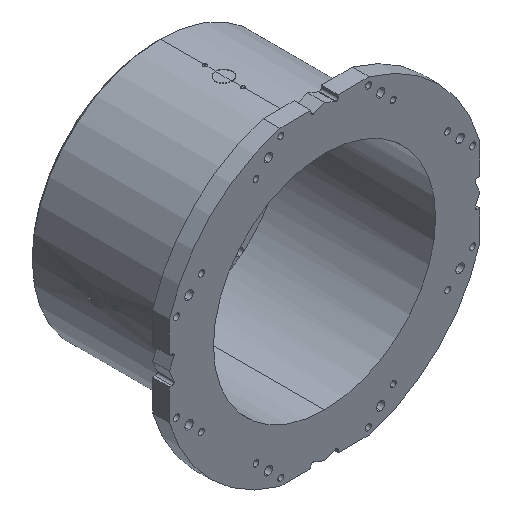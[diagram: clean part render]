
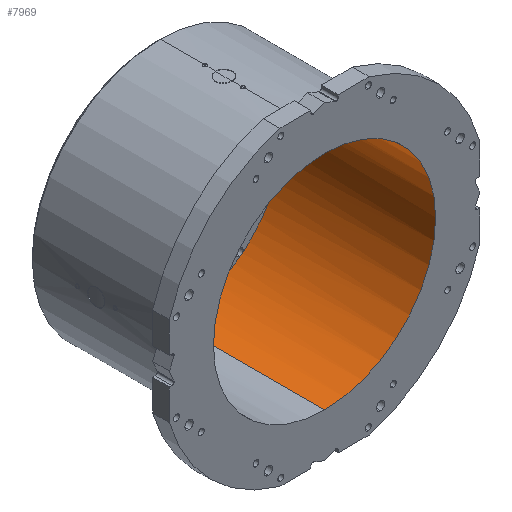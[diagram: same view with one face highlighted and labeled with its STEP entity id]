
A CAD part, isometric view. The second image highlights one B-rep face of the part: STEP entity #7969.
In plain terms, the highlighted cylindrical face has radius 265 mm (diameter 530 mm), a partial arc.
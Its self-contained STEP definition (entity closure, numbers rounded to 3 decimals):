
#61 = CARTESIAN_POINT ( 'NONE',  ( 0., 363., 0. ) ) ;
#160 = DIRECTION ( 'NONE',  ( 0., 0., 1. ) ) ;
#321 = VERTEX_POINT ( 'NONE', #10235 ) ;
#514 = ORIENTED_EDGE ( 'NONE', *, *, #6958, .F. ) ;
#605 = CARTESIAN_POINT ( 'NONE',  ( 0., 0., 0. ) ) ;
#945 = CARTESIAN_POINT ( 'NONE',  ( 0., 0., 0. ) ) ;
#1448 = VERTEX_POINT ( 'NONE', #9863 ) ;
#1966 = DIRECTION ( 'NONE',  ( 0., 1., 0. ) ) ;
#2397 = DIRECTION ( 'NONE',  ( 0., 1., 0. ) ) ;
#2420 = CARTESIAN_POINT ( 'NONE',  ( 0., 0., -265. ) ) ;
#2436 = VECTOR ( 'NONE', #4491, 1000. ) ;
#2798 = CARTESIAN_POINT ( 'NONE',  ( 0., 0., -265. ) ) ;
#2836 = DIRECTION ( 'NONE',  ( 0., 1., 0. ) ) ;
#3251 = LINE ( 'NONE', #2420, #4385 ) ;
#3862 = ORIENTED_EDGE ( 'NONE', *, *, #10820, .F. ) ;
#4275 = LINE ( 'NONE', #5284, #2436 ) ;
#4311 = DIRECTION ( 'NONE',  ( 0., 0., 1. ) ) ;
#4385 = VECTOR ( 'NONE', #7556, 1000. ) ;
#4491 = DIRECTION ( 'NONE',  ( 0., 1., 0. ) ) ;
#4682 = EDGE_CURVE ( 'NONE', #1448, #8943, #4275, .T. ) ;
#4839 = FACE_OUTER_BOUND ( 'NONE', #10063, .T. ) ;
#4928 = VERTEX_POINT ( 'NONE', #2798 ) ;
#5284 = CARTESIAN_POINT ( 'NONE',  ( 0., 0., 265. ) ) ;
#5556 = AXIS2_PLACEMENT_3D ( 'NONE', #605, #2397, #10756 ) ;
#5685 = ORIENTED_EDGE ( 'NONE', *, *, #4682, .T. ) ;
#5686 = CYLINDRICAL_SURFACE ( 'NONE', #5556, 265. ) ;
#6538 = ORIENTED_EDGE ( 'NONE', *, *, #11045, .T. ) ;
#6958 = EDGE_CURVE ( 'NONE', #1448, #4928, #9971, .T. ) ;
#7556 = DIRECTION ( 'NONE',  ( 0., 1., 0. ) ) ;
#7588 = CIRCLE ( 'NONE', #10976, 265. ) ;
#7969 = ADVANCED_FACE ( 'NONE', ( #4839 ), #5686, .F. ) ;
#8060 = CARTESIAN_POINT ( 'NONE',  ( 0., 363., 265. ) ) ;
#8740 = AXIS2_PLACEMENT_3D ( 'NONE', #945, #2836, #160 ) ;
#8943 = VERTEX_POINT ( 'NONE', #8060 ) ;
#9863 = CARTESIAN_POINT ( 'NONE',  ( 0., 0., 265. ) ) ;
#9971 = CIRCLE ( 'NONE', #8740, 265. ) ;
#10063 = EDGE_LOOP ( 'NONE', ( #3862, #514, #5685, #6538 ) ) ;
#10235 = CARTESIAN_POINT ( 'NONE',  ( 0., 363., -265. ) ) ;
#10756 = DIRECTION ( 'NONE',  ( 0., 0., 1. ) ) ;
#10820 = EDGE_CURVE ( 'NONE', #4928, #321, #3251, .T. ) ;
#10976 = AXIS2_PLACEMENT_3D ( 'NONE', #61, #1966, #4311 ) ;
#11045 = EDGE_CURVE ( 'NONE', #8943, #321, #7588, .T. ) ;
